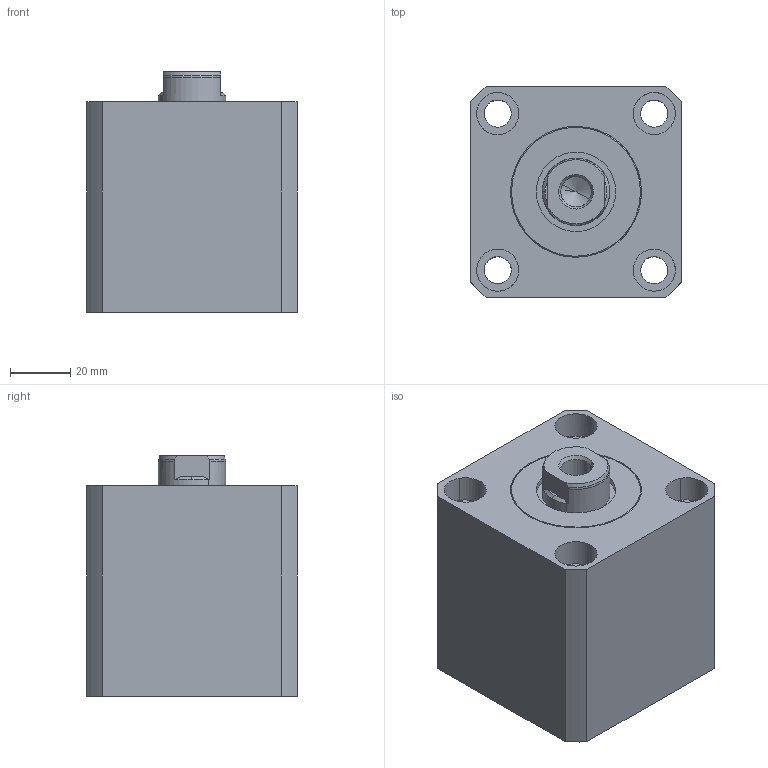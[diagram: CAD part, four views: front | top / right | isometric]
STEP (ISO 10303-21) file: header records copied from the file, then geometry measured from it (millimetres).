
FILE_DESCRIPTION(('CATIA V5 STEP'),'2;1');
FILE_NAME('\\Kjf-102\kjf_tc\Hydraulic_Clamp\Standard\BLOCK_CLAMP\BDx-40xx\G-TYPE\BDV-4015G_-.stp','2018-12-10T02:17:24+00:00',('none'),('none'),'CATIA Version 5 Release 19 SP 6 (IN-10)','CATIA V5 STEP AP214','none');
FILE_SCHEMA(('AUTOMOTIVE_DESIGN { 1 0 10303 214 1 1 1 1 }'));
Length unit declared in the file: millimetre
Products named in the file (3): BDV-4015G_-; BDV-4015G_-_HOUSING; BDx-4015_-_PISTON
Assembly tree (2 placements, depth 2):
  BDV-4015G_-
    BDV-4015G_-_HOUSING
    BDx-4015_-_PISTON
Bounding box: 70 x 70 x 80 mm (x, y, z)
Volume: 271053 mm3; surface area: 50606.2 mm2
Topology: 2 solids, 2 shells, 95 faces, 229 edges, 150 vertices
Faces by surface type: cylinder 48, plane 26, cone 19, torus 2
Entity records: 3165 total; most frequent: CARTESIAN_POINT 995, ORIENTED_EDGE 446, DIRECTION 348, EDGE_CURVE 223, AXIS2_PLACEMENT_3D 180, VERTEX_POINT 149, EDGE_LOOP 120, ADVANCED_FACE 95
